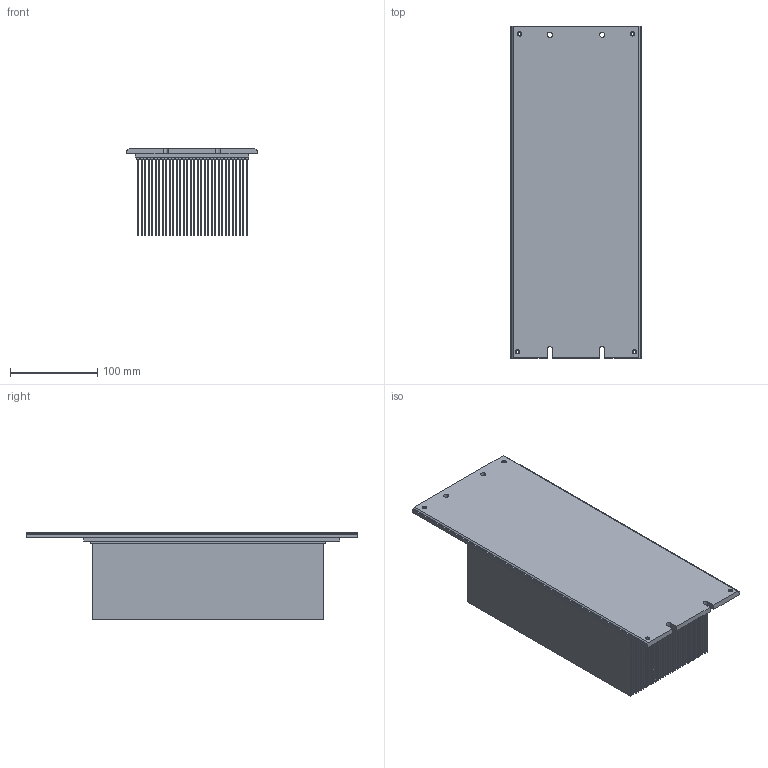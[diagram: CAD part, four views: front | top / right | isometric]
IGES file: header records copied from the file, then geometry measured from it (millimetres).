
Start section:  PTC IGES file: j4-du9-11k-base.igs
Global section: file name: j4-du9-11k-base.igs; native system: Creo Parametric by Parametric Technology Corporation; preprocessor: 2014310; author: JR20012; organization: Unknown; date: 20160927.133802; units: millimetre
Bounding box: 150 x 380 x 100 mm (x, y, z)
Volume: 1303684.6 mm3; surface area: 1654649.5 mm2
Topology: 1 solids, 5 shells, 381 faces, 966 edges, 684 vertices
Faces by surface type: bspline 381
